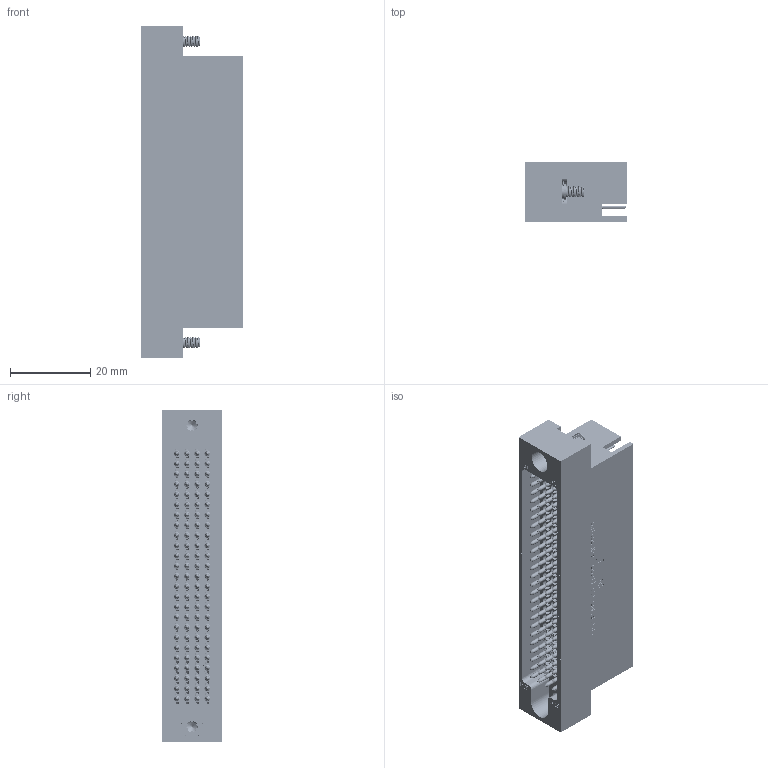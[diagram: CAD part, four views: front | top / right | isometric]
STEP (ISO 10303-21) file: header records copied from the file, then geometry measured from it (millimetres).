
FILE_DESCRIPTION(/* description */ (''),/* implementation_level */ '2;1');
FILE_NAME(/* name */ 'F:\CAD\CAD COMPLETE\web site project\ITA Modules\562186-RevA-STP\562186-CU.stp',/* time_stamp */ '2015-05-19T15:47:03+01:00',/* author */ ('davecooper'),/* organization */ (''),/* preprocessor_version */ 'ST-DEVELOPER v15.2',/* originating_system */ 'Autodesk Inventor 2014',/* authorisation */ '');
FILE_SCHEMA (('AUTOMOTIVE_DESIGN { 1 0 10303 214 3 1 1 }'));
Products named in the file (1): 562186-CU
Bounding box: 25.6 x 14.83 x 82.55 mm (x, y, z)
Surface area: 30525.5 mm2 (no closed solid volume)
Topology: 0 solids, 206 shells, 7329 faces, 18760 edges, 12607 vertices
Faces by surface type: plane 2964, cylinder 2054, bspline 2003, torus 200, sphere 100, cone 8
Full cylindrical faces by diameter (mm): 0.635 x100, 1.041 x100, 1.372 x100, 1.727 x200, 1.778 x100, 2.159 x100, 2.261 x200, 2.381 x2, 2.845 x12, 3.429 x2, 3.962 x4, 4.064 x2, 5.08 x2, 5.461 x2
Entity records: 284599 total; most frequent: CARTESIAN_POINT 120621, ORIENTED_EDGE 34562, DIRECTION 25790, EDGE_CURVE 17281, VERTEX_POINT 12364, AXIS2_PLACEMENT_3D 10425, EDGE_LOOP 9717, STYLED_ITEM 7220
